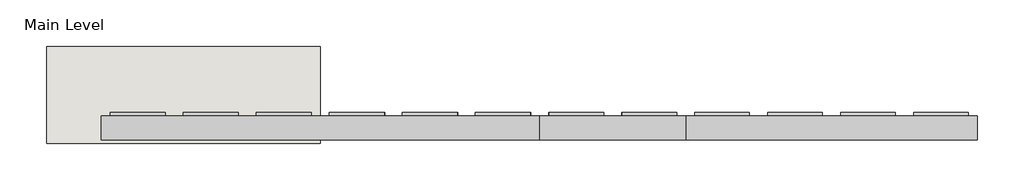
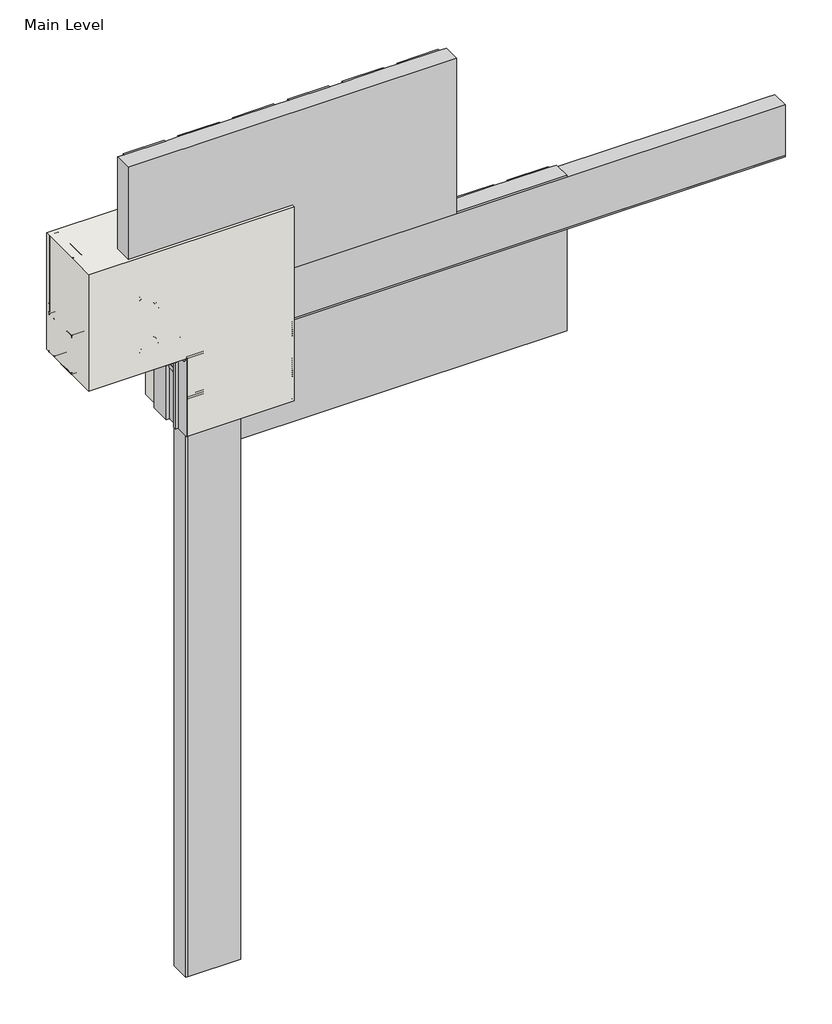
# One storey, incomplete: 24 proxies, 1 wall.
"""IFC4 building model written with IfcOpenShell, lengths in millimetres."""

from ifc_helpers import new_model, si_unit, frame, origin, place, context, project, spatial, polyline, outline, extrude, transform, mapped, element, save
from components import generic_models_31547c53, generic_models_0795693d, generic_models_cb092f88, generic_models_04f31e3c, generic_models_08e6521c, generic_models_d28646c3, generic_models_8c792c9c, proxy_4c3b85e5, proxy_215900e5, proxy_691c8b69, finish_coat_filler_finish_coat_filler_f99f7fa1, masonry_sill_masonry_sill_2c722ada, masonry_sill1_masonry_sill_fe5a3651, masonry_sill2_masonry_sill_6ded4e80, proxy_a3fd9b0b, proxy_3a0ad636, proxy_0073da47, sealant_sealant_3a8dd322, window_header_window_header_abd4ef46, wood_blocking_5320d369

model = new_model("IFC4")

# Units and contexts
model_context = context("Model", 3, world=origin())
ifc_project = project(units=[si_unit("LENGTHUNIT", "METRE", prefix="MILLI")], contexts=[model_context])

# Site, building, storey
site = spatial("IfcSite", under=ifc_project)
building = spatial("IfcBuilding", under=site)
storey = spatial("IfcBuildingStorey", under=building, Name="Main Level", Elevation=0.0)

# Proxies
placement = place(None, origin())
generic_models_shape = generic_models_31547c53(model_context)
element("IfcBuildingElementProxy", 1, Name="Durabond Generic Model Sealant Vent : Durabond Generic Model Sealant Vent", ObjectType="Durabond Generic Model Sealant Vent : Durabond Generic Model Sealant Vent", at=placement, inside=storey, context=model_context, shape_type="MappedRepresentation", body=[
    mapped(generic_models_shape, transform((26800.7195523, 547.6393211, 304.2607023), x_axis=(1.0, 0.0, 0.0), y_axis=(0.0, 0.08715574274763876, -0.9961946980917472), z_axis=(0.0, 0.9961946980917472, 0.08715574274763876))),
])
generic_models_2_shape = generic_models_0795693d(model_context)
generic_models_3_shape = generic_models_cb092f88(model_context)
generic_models_4_shape = generic_models_04f31e3c(model_context)
generic_models_5_shape = generic_models_08e6521c(model_context)
element("IfcBuildingElementProxy", 2, Name="CRAi Generic Model Mesh Piece Face Based : CRAi Generic Model Mesh Piece Face Based", ObjectType="CRAi Generic Model Mesh Piece Face Based : CRAi Generic Model Mesh Piece Face Based", at=placement, inside=storey, context=model_context, shape_type="MappedRepresentation", body=[
    mapped(generic_models_2_shape, transform((27054.3226773, 541.9066297, 155.3366797), x_axis=(-1.0, 0.0, 0.0), y_axis=(0.0, 0.0, -1.0), z_axis=(0.0, -1.0, 0.0))),
    mapped(generic_models_3_shape, transform((27054.3226773, 541.9066297, 155.3366797), x_axis=(-1.0, 0.0, 0.0), y_axis=(0.0, 0.0, -1.0), z_axis=(0.0, -1.0, 0.0))),
    mapped(generic_models_4_shape, transform((27054.3226773, 541.9066297, 155.3366797), x_axis=(-1.0, 0.0, 0.0), y_axis=(0.0, 0.0, -1.0), z_axis=(0.0, -1.0, 0.0))),
    mapped(generic_models_5_shape, transform((27054.3226773, 541.9066297, 155.3366797), x_axis=(-1.0, 0.0, 0.0), y_axis=(0.0, 0.0, -1.0), z_axis=(0.0, -1.0, 0.0))),
])
generic_models_6_shape = generic_models_d28646c3(model_context)
element("IfcBuildingElementProxy", 3, Name="CRAi Generic Model Line Based Drip Deflector : CRAi Generic Model Line Based Drip Deflector", ObjectType="CRAi Generic Model Line Based Drip Deflector : CRAi Generic Model Line Based Drip Deflector", at=placement, inside=storey, context=model_context, shape_type="MappedRepresentation", body=[
    mapped(generic_models_6_shape, transform((26855.8851773, 541.5329375, 295.758643), x_axis=(0.0, 0.996194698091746, 0.08715574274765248), y_axis=(-1.0, 0.0, 0.0), z_axis=(0.0, -0.08715574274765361, 0.996194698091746))),
])
generic_models_7_shape = generic_models_8c792c9c(model_context)
element("IfcBuildingElementProxy", 4, Name="Durabond Generic Model Screw w Standard Wall Plate : Durabond Generic Model Screw w Standard Wall Plate", ObjectType="Durabond Generic Model Screw w Standard Wall Plate : Durabond Generic Model Screw w Standard Wall Plate", at=placement, inside=storey, context=model_context, shape_type="MappedRepresentation", body=[
    mapped(generic_models_7_shape, transform((26692.3726773, 547.4628797, 380.874222), x_axis=(1.0, 0.0, 0.0), y_axis=(0.0, 0.0, 1.0), z_axis=(0.0, -1.0, 0.0))),
])
element("IfcBuildingElementProxy", 5, Name="Durabond Generic Model Screw w Standard Wall Plate : Durabond Generic Model Screw w Standard Wall Plate", ObjectType="Durabond Generic Model Screw w Standard Wall Plate : Durabond Generic Model Screw w Standard Wall Plate", at=placement, inside=storey, context=model_context, shape_type="MappedRepresentation", body=[
    mapped(generic_models_7_shape, transform((26743.1726773, 544.2878797, 412.687111), x_axis=(1.0, 0.0, 0.0), y_axis=(0.0, 0.0, 1.0), z_axis=(0.0, -1.0, 0.0))),
])
element("IfcBuildingElementProxy", 6, Name="Durabond Generic Model Screw w Standard Wall Plate : Durabond Generic Model Screw w Standard Wall Plate", ObjectType="Durabond Generic Model Screw w Standard Wall Plate : Durabond Generic Model Screw w Standard Wall Plate", at=placement, inside=storey, context=model_context, shape_type="MappedRepresentation", body=[
    mapped(generic_models_7_shape, transform((26743.1726773, 544.2878797, 552.387111), x_axis=(1.0, 0.0, 0.0), y_axis=(0.0, 0.0, 1.0), z_axis=(0.0, -1.0, 0.0))),
])
element("IfcBuildingElementProxy", 7, Name="Durabond Generic Model Screw w Standard Wall Plate : Durabond Generic Model Screw w Standard Wall Plate", ObjectType="Durabond Generic Model Screw w Standard Wall Plate : Durabond Generic Model Screw w Standard Wall Plate", at=placement, inside=storey, context=model_context, shape_type="MappedRepresentation", body=[
    mapped(generic_models_7_shape, transform((26692.3726773, 547.4628797, 584.074222), x_axis=(1.0, 0.0, 0.0), y_axis=(0.0, 0.0, 1.0), z_axis=(0.0, -1.0, 0.0))),
])
proxy_shape = proxy_4c3b85e5(model_context)
element("IfcBuildingElementProxy", 8, Name="Durabond Generic Model Insulite Select Extruded Boundary Board : 3\"", ObjectType="Durabond Generic Model Insulite Select Extruded Boundary Board : 3\"", at=placement, inside=storey, context=model_context, shape_type="MappedRepresentation", body=[
    mapped(proxy_shape, transform((26957.4851773, 624.4566297, -908.175778), x_axis=(0.0, 0.0, -1.0), y_axis=(1.0, 0.0, 0.0), z_axis=(0.0, -1.0, 0.0))),
])
proxy_2_shape = proxy_215900e5(model_context)
element("IfcBuildingElementProxy", 9, Name="Durabond Generic Model Insulite Select Extruded Insulation Board : 3\"", ObjectType="Durabond Generic Model Insulite Select Extruded Insulation Board : 3\"", at=placement, inside=storey, context=model_context, shape_type="MappedRepresentation", body=[
    mapped(proxy_2_shape, transform((27251.1726773, 624.4566297, 819.024222), x_axis=(1.0, 0.0, 0.0), y_axis=(0.0, 0.0, 1.0), z_axis=(0.0, -1.0, 0.0))),
])
element("IfcBuildingElementProxy", 10, Name="Durabond Generic Model Insulite Select Extruded Insulation Board : 3\"", ObjectType="Durabond Generic Model Insulite Select Extruded Insulation Board : 3\"", at=placement, inside=storey, context=model_context, shape_type="MappedRepresentation", body=[
    mapped(proxy_2_shape, transform((27659.1601773, 624.4566297, 217.361722), x_axis=(1.0, 0.0, 0.0), y_axis=(0.0, 0.0, 1.0), z_axis=(0.0, -1.0, 0.0))),
])
proxy_3_shape = proxy_691c8b69(model_context)
element("IfcBuildingElementProxy", 11, Name="Durabond Generic Model Insulite Select Extruded Vent Board : 3\"", ObjectType="Durabond Generic Model Insulite Select Extruded Vent Board : 3\"", at=placement, inside=storey, context=model_context, shape_type="MappedRepresentation", body=[
    mapped(proxy_3_shape, transform((27860.7726773, 624.4566297, 412.624222), x_axis=(1.0, 0.0, 0.0), y_axis=(0.0, 0.0, 1.0), z_axis=(0.0, -1.0, 0.0))),
])
finish_coat_filler_finish_coat_filler_shape = finish_coat_filler_finish_coat_filler_f99f7fa1(model_context)
element("IfcBuildingElementProxy", 12, Name="Finish Coat Filler : Finish Coat Filler", ObjectType="Finish Coat Filler : Finish Coat Filler", at=placement, inside=storey, context=model_context, shape_type="MappedRepresentation", body=[
    mapped(finish_coat_filler_finish_coat_filler_shape, transform((0.0, 0.0, 0.0), x_axis=(1.0, 0.0, 0.0), y_axis=(0.0, 1.0, 0.0), z_axis=(0.0, 0.0, 1.0))),
])
masonry_sill_masonry_sill_shape = masonry_sill_masonry_sill_2c722ada(model_context)
element("IfcBuildingElementProxy", 13, Name="Masonry Sill : Masonry Sill", ObjectType="Masonry Sill : Masonry Sill", at=placement, inside=storey, context=model_context, shape_type="MappedRepresentation", body=[
    mapped(masonry_sill_masonry_sill_shape, transform((0.0, 0.0, 0.0), x_axis=(1.0, 0.0, 0.0), y_axis=(0.0, 1.0, 0.0), z_axis=(0.0, 0.0, 1.0))),
])
masonry_sill1_masonry_sill_shape = masonry_sill1_masonry_sill_fe5a3651(model_context)
element("IfcBuildingElementProxy", 14, Name="Masonry Sill1 : Masonry Sill", ObjectType="Masonry Sill1 : Masonry Sill", at=placement, inside=storey, context=model_context, shape_type="MappedRepresentation", body=[
    mapped(masonry_sill1_masonry_sill_shape, transform((0.0, -6.35, 0.0), x_axis=(1.0, 0.0, 0.0), y_axis=(0.0, 1.0, 0.0), z_axis=(0.0, 0.0, 1.0))),
])
masonry_sill2_masonry_sill_shape = masonry_sill2_masonry_sill_6ded4e80(model_context)
element("IfcBuildingElementProxy", 15, Name="Masonry Sill2 : Masonry Sill", ObjectType="Masonry Sill2 : Masonry Sill", at=placement, inside=storey, context=model_context, shape_type="MappedRepresentation", body=[
    mapped(masonry_sill2_masonry_sill_shape, transform((0.0, 0.0, 0.0), x_axis=(1.0, 0.0, 0.0), y_axis=(0.0, 1.0, 0.0), z_axis=(0.0, 0.0, 1.0))),
])
proxy_4_shape = proxy_a3fd9b0b(model_context)
element("IfcBuildingElementProxy", 16, Name="CRAi Generic Model Metal Stud : Metal Framing Stud - 1\" x 3.5\"", ObjectType="CRAi Generic Model Metal Stud : Metal Framing Stud - 1\" x 3.5\"", at=placement, inside=storey, context=model_context, shape_type="MappedRepresentation", body=[
    mapped(proxy_4_shape, transform((26876.5226773, 726.0566297, 0.0), x_axis=(1.0, 0.0, 0.0), y_axis=(0.0, 1.0, 0.0), z_axis=(0.0, 0.0, 1.0))),
])
proxy_5_shape = proxy_3a0ad636(model_context)
element("IfcBuildingElementProxy", 17, Name="CRAi Generic Model Metal Stud : Metal Framing Stud - 1\" x 3.5\"", ObjectType="CRAi Generic Model Metal Stud : Metal Framing Stud - 1\" x 3.5\"", at=placement, inside=storey, context=model_context, shape_type="MappedRepresentation", body=[
    mapped(proxy_5_shape, transform((26508.2226773, 719.7066297, 0.0), x_axis=(-1.0, 0.0, 0.0), y_axis=(0.0, -1.0, 0.0), z_axis=(0.0, 0.0, 1.0))),
])
element("IfcBuildingElementProxy", 18, Name="CRAi Generic Model Metal Stud : Metal Framing Stud - 1\" x 3.5\"", ObjectType="CRAi Generic Model Metal Stud : Metal Framing Stud - 1\" x 3.5\"", at=placement, inside=storey, context=model_context, shape_type="MappedRepresentation", body=[
    mapped(proxy_5_shape, transform((26876.5226773, 719.7066297, 0.0), x_axis=(-1.0, 0.0, 0.0), y_axis=(0.0, -1.0, 0.0), z_axis=(0.0, 0.0, 1.0))),
])
proxy_6_shape = proxy_0073da47(model_context)
element("IfcBuildingElementProxy", 19, Name="CRAi Generic Model Metal Stud : Metal Framing Stud - 1\" x 3.5\"", ObjectType="CRAi Generic Model Metal Stud : Metal Framing Stud - 1\" x 3.5\"", at=placement, inside=storey, context=model_context, shape_type="MappedRepresentation", body=[
    mapped(proxy_6_shape, transform((26914.6226773, 719.7066297, 0.0), x_axis=(1.0, 0.0, 0.0), y_axis=(0.0, 1.0, 0.0), z_axis=(0.0, 0.0, 1.0))),
])
sealant_sealant_shape = sealant_sealant_3a8dd322(model_context)
element("IfcBuildingElementProxy", 20, Name="Sealant : Sealant", ObjectType="Sealant : Sealant", at=placement, inside=storey, context=model_context, shape_type="MappedRepresentation", body=[
    mapped(sealant_sealant_shape, transform((0.0, 0.0, 0.0), x_axis=(1.0, 0.0, 0.0), y_axis=(0.0, 1.0, 0.0), z_axis=(0.0, 0.0, 1.0))),
])
window_header_window_header_shape = window_header_window_header_abd4ef46(model_context)
element("IfcBuildingElementProxy", 21, Name="Window Header : Window Header", ObjectType="Window Header : Window Header", at=placement, inside=storey, context=model_context, shape_type="MappedRepresentation", body=[
    mapped(window_header_window_header_shape, transform((0.0, -6.35, 0.0), x_axis=(1.0, 0.0, 0.0), y_axis=(0.0, 1.0, 0.0), z_axis=(0.0, 0.0, 1.0))),
])
wood_blocking_shape = wood_blocking_5320d369(model_context)
element("IfcBuildingElementProxy", 22, Name="CRAi Generic Model Line Based Metal Framing Track : Wood Blocking", ObjectType="CRAi Generic Model Line Based Metal Framing Track : Wood Blocking", at=placement, inside=storey, context=model_context, shape_type="MappedRepresentation", body=[
    mapped(wood_blocking_shape, transform((26489.1726773, 643.5066297, 304.8), x_axis=(1.0, 0.0, 0.0), y_axis=(0.0, 1.0, 0.0), z_axis=(0.0, 0.0, 1.0))),
])
element("IfcBuildingElementProxy", 23, Name="CRAi Generic Model Line Based Metal Framing Track : Wood Blocking", ObjectType="CRAi Generic Model Line Based Metal Framing Track : Wood Blocking", at=placement, inside=storey, context=model_context, shape_type="MappedRepresentation", body=[
    mapped(wood_blocking_shape, transform((26489.1726773, 795.907101, 457.2), x_axis=(1.0, 0.0, 0.0), y_axis=(0.0, -1.0, 0.0), z_axis=(0.0, 0.0, -1.0))),
])
element("IfcBuildingElementProxy", 24, Name="CRAi Generic Model Line Based Metal Framing Track : Wood Blocking", ObjectType="CRAi Generic Model Line Based Metal Framing Track : Wood Blocking", at=placement, inside=storey, context=model_context, shape_type="MappedRepresentation", body=[
    mapped(wood_blocking_shape, transform((26489.1726773, 643.5066297, 457.2), x_axis=(1.0, 0.0, 0.0), y_axis=(0.0, 1.0, 0.0), z_axis=(0.0, 0.0, 1.0))),
])

# Wall
element("IfcWall", 25, ObjectType="189mm (7.5”) EIFS Field Applied on Mtl. Stud Layer - 50mm Grooved Insulation Board Metal Stud Wall(AirStop) 2", at=placement, inside=storey, context=model_context, shape_type="SweptSolid", body=[
    extrude(outline(polyline([(0.0, 27251.1726773), (762.0, 27251.1726773), (762.0, 26489.1726773), (304.8, 26489.1726773), (304.8, 26857.4726773), (0.0, 26857.4726773), (0.0, 27251.1726773)])), frame((0.0, 538.7316297, 0.0), z_axis=(0.0, 1.0, 0.0), x_axis=(0.0, 0.0, 1.0)), (0.0, 0.0, 1.0), 269.875),
])

save(model, "model.ifc")
